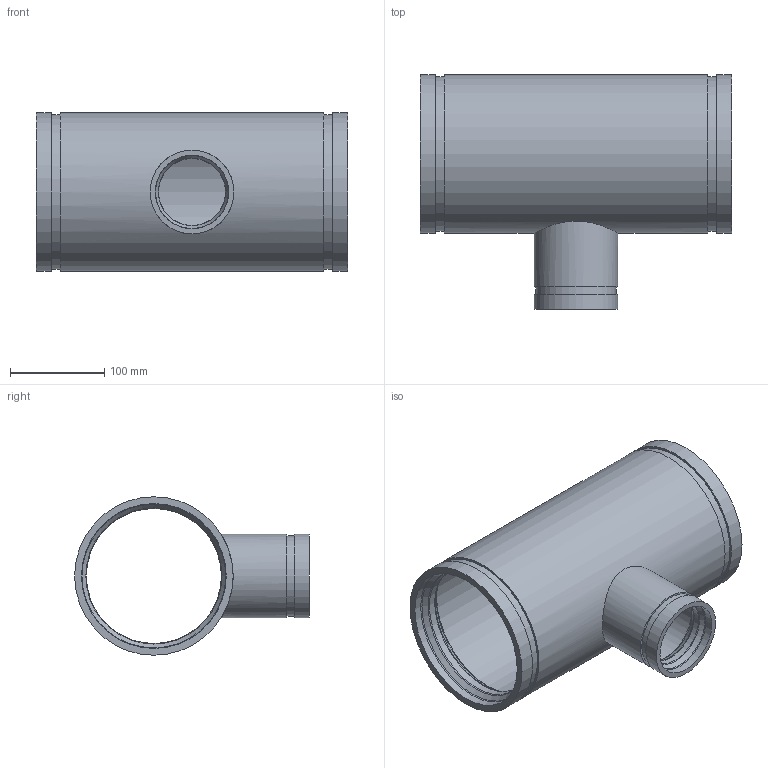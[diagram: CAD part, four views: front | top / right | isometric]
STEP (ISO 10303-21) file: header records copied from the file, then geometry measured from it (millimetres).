
FILE_DESCRIPTION(/* description */ ('VIC REDUCING TEE No 425H-SS','CAx-IF Rec.Pracs.---Representation and Presentation of Product Manufacturing Information (PMI)---4.0---2014-10-13'),/* implementation_level */ '2;1');
FILE_NAME(/* name */ 'C:\Users\kkamble\AppData\Roaming\Autodesk\ApplicationPlugins\Back Up\Victaulic_SS-OGS_Tee Reducing_Sched 40S_No 425H SS (OGS)\Victaulic_SS-OGS_Tee Reducing_Sched 40S_No 425H SS (OGS)_06.0x03.0 (150x80).stp',/* time_stamp */ '2020-08-27T17:20:04+06:00',/* author */ ('CORINNE GRAY'),/* organization */ ('Victaulic'),/* preprocessor_version */ 'ST-DEVELOPER v17.2',/* originating_system */ 'Autodesk Inventor 2019',/* authorisation */ '');
FILE_SCHEMA (('AP242_MANAGED_MODEL_BASED_3D_ENGINEERING_MIM_LF { 1 0 10303 442 1 1 4 }'));
Length unit declared in the file: inch
Products named in the file (1): 425H SS-06.0x03.0
Bounding box: 330.2 x 249.24 x 168.28 mm (x, y, z)
Volume: 1369675.4 mm3; surface area: 386093 mm2
Topology: 1 solids, 1 shells, 43 faces, 134 edges, 100 vertices
Faces by surface type: cylinder 16, torus 12, plane 9, cone 6
Full cylindrical faces by diameter (mm): 71.018 x1, 77.978 x2, 84.938 x1, 88.9 x2, 143.383 x2, 153.67 x3, 163.957 x2, 168.275 x3
Entity records: 1919 total; most frequent: CARTESIAN_POINT 427, DIRECTION 352, ORIENTED_EDGE 268, AXIS2_PLACEMENT_3D 165, EDGE_CURVE 134, CIRCLE 108, VERTEX_POINT 100, EDGE_LOOP 54
